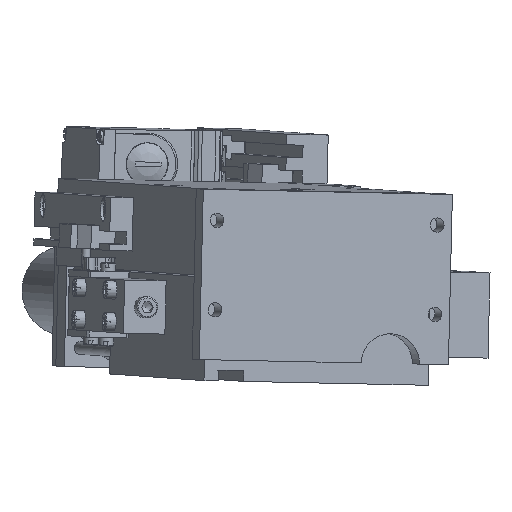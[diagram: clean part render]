
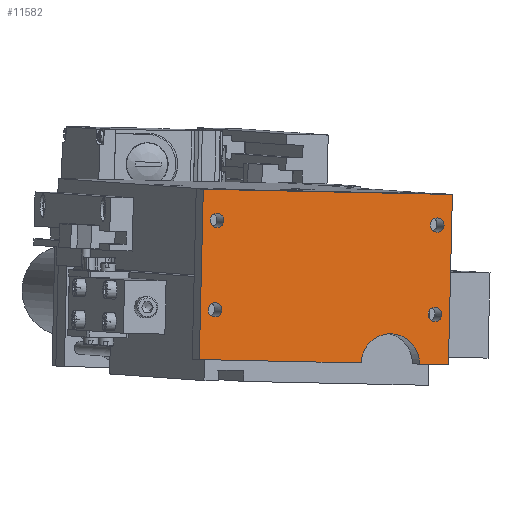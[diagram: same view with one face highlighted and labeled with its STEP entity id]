
A CAD part, front view. The second image highlights one B-rep face of the part: STEP entity #11582.
In plain terms, the highlighted planar face has unit normal (0.222, -0.975, -0.016).
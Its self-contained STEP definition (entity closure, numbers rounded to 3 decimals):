
#11246=CARTESIAN_POINT('',(80.492,-100.339,95.57));
#11247=VERTEX_POINT('',#11246);
#11248=CARTESIAN_POINT('',(77.252,-101.077,95.638));
#11249=DIRECTION('',(-0.222,0.975,0.016));
#11250=DIRECTION('',(0.975,0.222,-0.02));
#11251=AXIS2_PLACEMENT_3D('',#11248,#11249,#11250);
#11252=CIRCLE('',#11251,3.324);
#11253=EDGE_CURVE('',#11247,#11247,#11252,.T.);
#11287=CARTESIAN_POINT('',(-22.843,-123.858,97.736));
#11288=VERTEX_POINT('',#11287);
#11289=CARTESIAN_POINT('',(-26.083,-124.596,97.803));
#11290=DIRECTION('',(-0.222,0.975,0.016));
#11291=DIRECTION('',(0.975,0.222,-0.02));
#11292=AXIS2_PLACEMENT_3D('',#11289,#11290,#11291);
#11293=CIRCLE('',#11292,3.324);
#11294=EDGE_CURVE('',#11288,#11288,#11293,.T.);
#11344=CARTESIAN_POINT('',(81.474,-100.788,137.556));
#11345=VERTEX_POINT('',#11344);
#11346=CARTESIAN_POINT('',(78.234,-101.525,137.624));
#11347=DIRECTION('',(-0.222,0.975,0.016));
#11348=DIRECTION('',(0.975,0.222,-0.02));
#11349=AXIS2_PLACEMENT_3D('',#11346,#11347,#11348);
#11350=CIRCLE('',#11349,3.324);
#11351=EDGE_CURVE('',#11345,#11345,#11350,.T.);
#11393=CARTESIAN_POINT('',(-21.861,-124.307,139.722));
#11394=VERTEX_POINT('',#11393);
#11395=CARTESIAN_POINT('',(-25.101,-125.044,139.79));
#11396=DIRECTION('',(-0.222,0.975,0.016));
#11397=DIRECTION('',(0.975,0.222,-0.02));
#11398=AXIS2_PLACEMENT_3D('',#11395,#11396,#11397);
#11399=CIRCLE('',#11398,3.324);
#11400=EDGE_CURVE('',#11394,#11394,#11399,.T.);
#11410=CARTESIAN_POINT('',(85.397,-100.127,151.976));
#11411=VERTEX_POINT('',#11410);
#11412=CARTESIAN_POINT('',(83.527,-99.273,72.003));
#11413=VERTEX_POINT('',#11412);
#11414=CARTESIAN_POINT('',(85.397,-100.127,151.976));
#11415=DIRECTION('',(-0.023,0.011,-1.));
#11416=VECTOR('',#11415,80.0);
#11417=LINE('',#11414,#11416);
#11418=EDGE_CURVE('',#11411,#11413,#11417,.T.);
#11441=CARTESIAN_POINT('',(69.879,-102.379,72.289));
#11442=VERTEX_POINT('',#11441);
#11443=CARTESIAN_POINT('',(83.527,-99.273,72.003));
#11444=DIRECTION('',(-0.975,-0.222,0.02));
#11445=VECTOR('',#11444,14.);
#11446=LINE('',#11443,#11445);
#11447=EDGE_CURVE('',#11413,#11442,#11446,.T.);
#11465=CARTESIAN_POINT('',(42.583,-108.591,72.861));
#11466=VERTEX_POINT('',#11465);
#11467=CARTESIAN_POINT('',(56.231,-105.485,72.575));
#11468=DIRECTION('',(0.222,-0.975,-0.016));
#11469=DIRECTION('',(0.975,0.222,-0.02));
#11470=AXIS2_PLACEMENT_3D('',#11467,#11468,#11469);
#11471=CIRCLE('',#11470,14.);
#11472=EDGE_CURVE('',#11442,#11466,#11471,.T.);
#11490=CARTESIAN_POINT('',(-33.456,-125.898,74.454));
#11491=VERTEX_POINT('',#11490);
#11492=CARTESIAN_POINT('',(42.583,-108.591,72.861));
#11493=DIRECTION('',(-0.975,-0.222,0.02));
#11494=VECTOR('',#11493,78.0);
#11495=LINE('',#11492,#11494);
#11496=EDGE_CURVE('',#11466,#11491,#11495,.T.);
#11514=CARTESIAN_POINT('',(-31.586,-126.752,154.428));
#11515=VERTEX_POINT('',#11514);
#11516=CARTESIAN_POINT('',(-33.456,-125.898,74.454));
#11517=DIRECTION('',(0.023,-0.011,1.));
#11518=VECTOR('',#11517,80.0);
#11519=LINE('',#11516,#11518);
#11520=EDGE_CURVE('',#11491,#11515,#11519,.T.);
#11538=CARTESIAN_POINT('',(-31.586,-126.752,154.428));
#11539=DIRECTION('',(0.975,0.222,-0.02));
#11540=VECTOR('',#11539,120.0);
#11541=LINE('',#11538,#11540);
#11542=EDGE_CURVE('',#11515,#11411,#11541,.T.);
#11557=CARTESIAN_POINT('',(27.153,-112.732,112.503));
#11558=DIRECTION('',(0.222,-0.975,-0.016));
#11559=DIRECTION('',(0.975,0.222,-0.02));
#11560=AXIS2_PLACEMENT_3D('',#11557,#11558,#11559);
#11561=PLANE('',#11560);
#11562=ORIENTED_EDGE('',*,*,#11418,.F.);
#11563=ORIENTED_EDGE('',*,*,#11542,.F.);
#11564=ORIENTED_EDGE('',*,*,#11520,.F.);
#11565=ORIENTED_EDGE('',*,*,#11496,.F.);
#11566=ORIENTED_EDGE('',*,*,#11472,.F.);
#11567=ORIENTED_EDGE('',*,*,#11447,.F.);
#11568=EDGE_LOOP('',(#11562,#11563,#11564,#11565,#11566,#11567));
#11569=FACE_OUTER_BOUND('',#11568,.T.);
#11570=ORIENTED_EDGE('',*,*,#11253,.T.);
#11571=EDGE_LOOP('',(#11570));
#11572=FACE_BOUND('',#11571,.T.);
#11573=ORIENTED_EDGE('',*,*,#11294,.T.);
#11574=EDGE_LOOP('',(#11573));
#11575=FACE_BOUND('',#11574,.T.);
#11576=ORIENTED_EDGE('',*,*,#11351,.T.);
#11577=EDGE_LOOP('',(#11576));
#11578=FACE_BOUND('',#11577,.T.);
#11579=ORIENTED_EDGE('',*,*,#11400,.T.);
#11580=EDGE_LOOP('',(#11579));
#11581=FACE_BOUND('',#11580,.T.);
#11582=ADVANCED_FACE('',(#11569,#11572,#11575,#11578,#11581),#11561,.T.);
